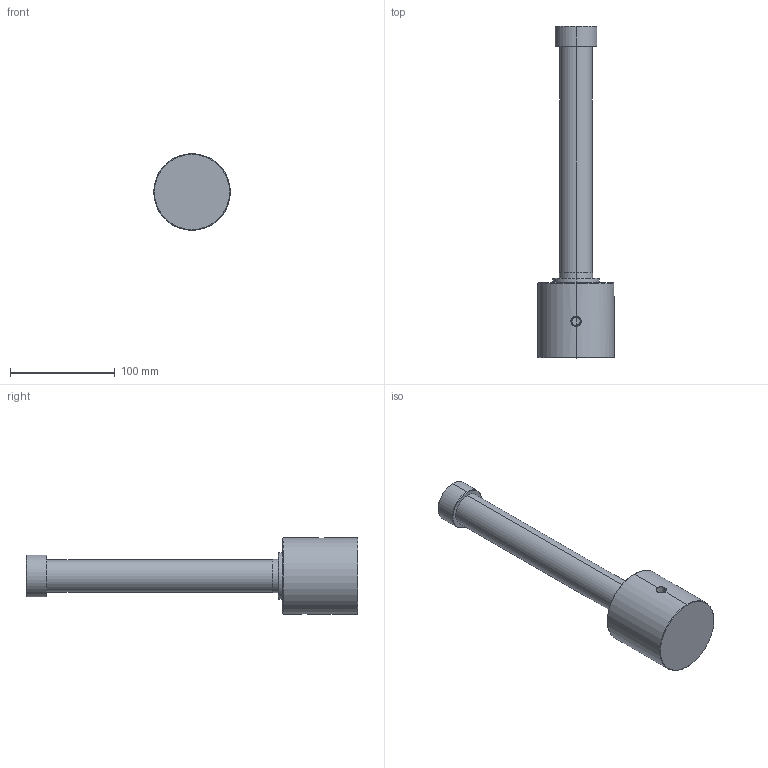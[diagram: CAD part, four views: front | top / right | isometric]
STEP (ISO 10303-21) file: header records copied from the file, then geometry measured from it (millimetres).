
FILE_DESCRIPTION((' '),'2;1');
FILE_NAME( 'TMG-2-320_step.prt.stp', '2024-08-27T14:05:43', (' '), ('--- Datakit www.datakit.com---'), ' Datakit CrossCadWare V2024.1 Dec 21 2023', 'Mastercam 2025', ' ');
FILE_SCHEMA(('AUTOMOTIVE_DESIGN { 1 0 10303 214 1 1 1 1 }'));
Length unit declared in the file: millimetre
Products named in the file (1): TMG-2-320_step
Bounding box: 73 x 317 x 73 mm (x, y, z)
Volume: 357167.9 mm3; surface area: 76519.3 mm2
Topology: 1 solids, 1 shells, 74 faces, 173 edges, 110 vertices
Faces by surface type: cylinder 35, plane 20, cone 19
Entity records: 2305 total; most frequent: CARTESIAN_POINT 557, DIRECTION 385, ORIENTED_EDGE 338, EDGE_CURVE 169, AXIS2_PLACEMENT_3D 160, VERTEX_POINT 110, EDGE_LOOP 89, CIRCLE 85
